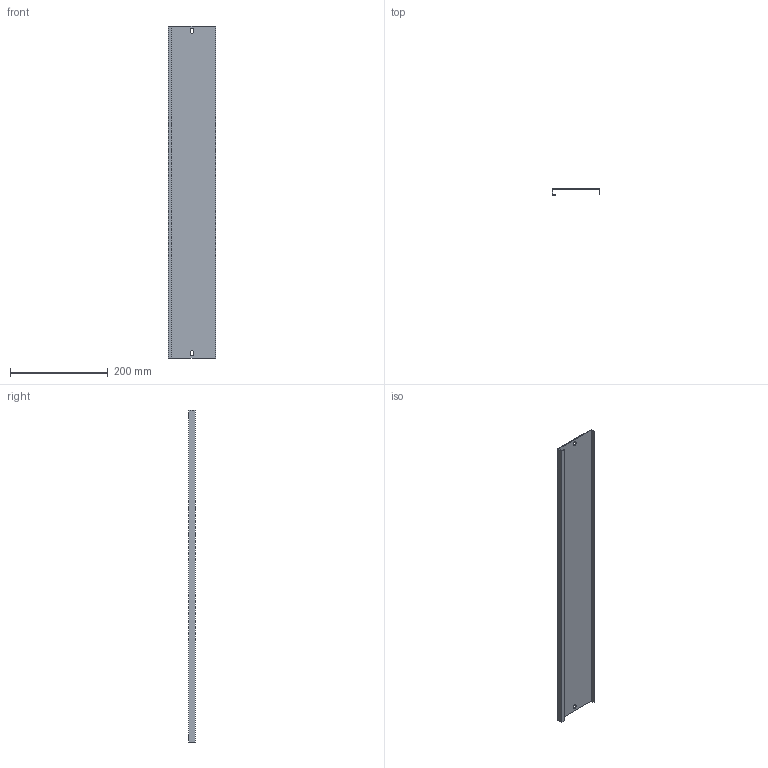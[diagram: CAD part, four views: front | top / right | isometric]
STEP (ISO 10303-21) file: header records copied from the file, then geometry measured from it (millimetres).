
FILE_DESCRIPTION (( 'STEP AP214' ), '1' );
FILE_NAME ('FO-00-PVS-010-080 Ïëàñòðîí ãëóõîé âíóòðåííèé 100õ800.STEP', '2025-08-26T10:37:52', ( '' ), ( '' ), 'SwSTEP 2.0', 'SolidWorks 2023', '' );
FILE_SCHEMA (( 'AUTOMOTIVE_DESIGN' ));
Length unit declared in the file: millimetre
Products named in the file (1): FO-00-PVS-010-080 Пластрон глухой внутренний 100х800
Bounding box: 98 x 12.5 x 679 mm (x, y, z)
Volume: 126115.5 mm3; surface area: 170647 mm2
Topology: 1 solids, 1 shells, 32 faces, 90 edges, 60 vertices
Faces by surface type: plane 26, cylinder 6
Entity records: 1057 total; most frequent: CARTESIAN_POINT 183, ORIENTED_EDGE 180, DIRECTION 168, EDGE_CURVE 90, VECTOR 78, LINE 78, VERTEX_POINT 60, AXIS2_PLACEMENT_3D 45
